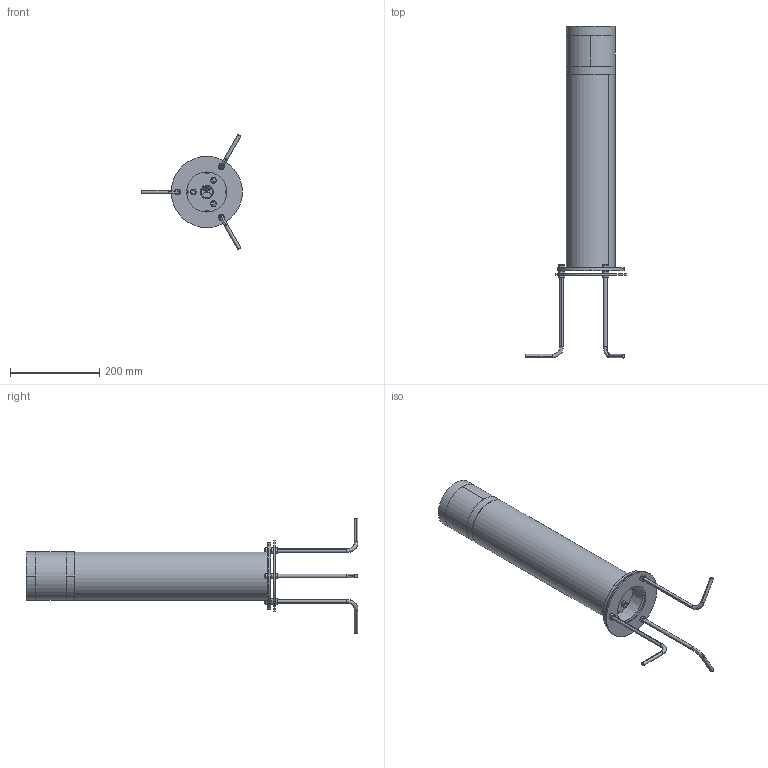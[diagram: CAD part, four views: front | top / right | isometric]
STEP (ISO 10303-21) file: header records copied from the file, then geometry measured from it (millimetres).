
FILE_DESCRIPTION((''),'2;1');
FILE_NAME('9EF-550_ASM','2024-09-20T',('C028'),(''),'CREO PARAMETRIC BY PTC INC, 2014190','CREO PARAMETRIC BY PTC INC, 2014190','');
FILE_SCHEMA(('CONFIG_CONTROL_DESIGN'));
Products named in the file (29): SHI_ZHI_GAI_555; TOU_MING_ZHAO_15; XIN_SHANG_GAI_75; LED_DENG_BAN_5; XIN_FANG_SHUI_QUAN_10; 9EF_TOU_GUANG_ZHAO_30; SHANG_GAI_ZU_ASM_44_ASM; 9AB-03DUDINGZUOHOUGAI_1_10; PAD_312_1_1; FANGUANGSAI-1_312_1_4; FANGSHUISAI_312_1_1; PG9_ASM_315_ASM_1_ASM_3_ASM; LI_BAN-24; M18; ZU_ZHUANG_TU_ASM_225_ASM; 9AD-07_300_1_35; LI_BAN; GUANZI_1; 12-ZHUANGJIEGGAI_3; 6-23; DICHA14A_ASM_1_ASM; 9AB_FA_LAN_PAN_56; M8-30; YUAN_GUAN-550_ASM; 9AB-11_4__ANY_; M8LUOMU_3__ANY_; 9AB-10_5__ANY_; 9ABDIZUO_AF5_ASM_333_ASM_1_ANY__ASM; 9EF-550_ASM
Assembly tree (40 placements, depth 4):
  9EF-550_ASM
    ZU_ZHUANG_TU_ASM_225_ASM
      SHI_ZHI_GAI_555
      TOU_MING_ZHAO_15
      SHANG_GAI_ZU_ASM_44_ASM
        XIN_SHANG_GAI_75
        LED_DENG_BAN_5
        XIN_FANG_SHUI_QUAN_10
        9EF_TOU_GUANG_ZHAO_30
      9AB-03DUDINGZUOHOUGAI_1_10
      PG9_ASM_315_ASM_1_ASM_3_ASM
        PAD_312_1_1
        FANGUANGSAI-1_312_1_4
        FANGSHUISAI_312_1_1
      LI_BAN-24
      M18
    YUAN_GUAN-550_ASM
      9AD-07_300_1_35
      LI_BAN
      DICHA14A_ASM_1_ASM
        GUANZI_1
        12-ZHUANGJIEGGAI_3
        6-23
      9AB_FA_LAN_PAN_56
      M8-30  x3
    9ABDIZUO_AF5_ASM_333_ASM_1_ANY__ASM
      9AB-11_4__ANY_  x3
      M8LUOMU_3__ANY_  x9
      9AB-10_5__ANY_
Bounding box: 226.5 x 745.35 x 257.75 mm (x, y, z)
Volume: 1315630.6 mm3; surface area: 790879.4 mm2
Topology: 34 solids, 34 shells, 4115 faces, 12200 edges, 6941 vertices
Faces by surface type: sphere 1394, plane 1248, cylinder 752, cone 340, torus 213, bspline 168
Entity records: 144941 total; most frequent: CARTESIAN_POINT 51957, ORIENTED_EDGE 20696, DIRECTION 18048, EDGE_CURVE 10348, AXIS2_PLACEMENT_3D 7396, VERTEX_POINT 6617, EDGE_LOOP 4077, FACE_OUTER_BOUND 3859
